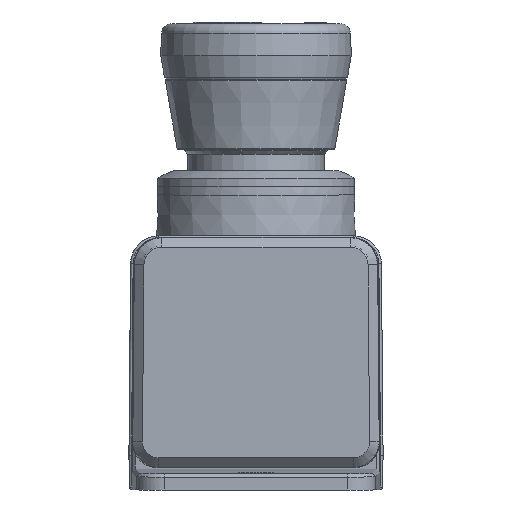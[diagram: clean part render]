
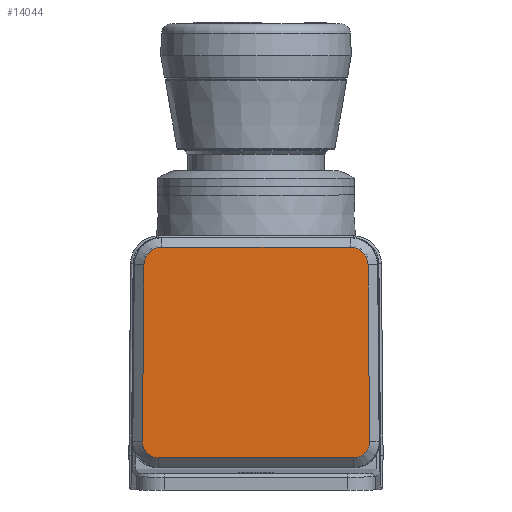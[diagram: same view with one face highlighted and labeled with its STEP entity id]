
A CAD part, front view. The second image highlights one B-rep face of the part: STEP entity #14044.
In plain terms, the highlighted planar face has unit normal (0, -1, 0) as drawn and (0, 1, 0) by its records, which use the part's own axes.
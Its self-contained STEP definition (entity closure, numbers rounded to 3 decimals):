
#622=PLANE('',#15262);
#1266=FACE_OUTER_BOUND('',#2136,.T.);
#2136=EDGE_LOOP('',(#11051,#11052,#11053,#11054,#11055,#11056,#11057,#11058,
#11059,#11060,#11061,#11062));
#2915=CIRCLE('',#15255,2.813);
#2917=CIRCLE('',#15259,2.813);
#3657=LINE('',#25554,#4727);
#3661=LINE('',#25563,#4731);
#3665=LINE('',#25575,#4735);
#3670=LINE('',#25637,#4740);
#4727=VECTOR('',#17907,10.);
#4731=VECTOR('',#17913,10.);
#4735=VECTOR('',#17925,10.);
#4740=VECTOR('',#17938,10.);
#5514=B_SPLINE_CURVE_WITH_KNOTS('',3,(#25602,#25603,#25604,#25605,#25606),
 .UNSPECIFIED.,.F.,.F.,(4,1,4),(-0.786,0.112,0.786),
 .UNSPECIFIED.);
#5516=B_SPLINE_CURVE_WITH_KNOTS('',3,(#25628,#25629,#25630,#25631),
 .UNSPECIFIED.,.F.,.F.,(4,4),(-0.79,-0.786),
 .UNSPECIFIED.);
#5517=B_SPLINE_CURVE_WITH_KNOTS('',3,(#25654,#25655,#25656,#25657),
 .UNSPECIFIED.,.F.,.F.,(4,4),(-11.78,-11.777),
 .UNSPECIFIED.);
#5518=B_SPLINE_CURVE_WITH_KNOTS('',3,(#25681,#25682,#25683,#25684,#25685),
 .UNSPECIFIED.,.F.,.F.,(4,1,4),(-0.786,-0.112,0.786),
 .UNSPECIFIED.);
#5519=B_SPLINE_CURVE_WITH_KNOTS('',3,(#25703,#25704,#25705,#25706),
 .UNSPECIFIED.,.F.,.F.,(4,4),(-0.79,-0.786),
 .UNSPECIFIED.);
#5521=B_SPLINE_CURVE_WITH_KNOTS('',3,(#25727,#25728,#25729,#25730),
 .UNSPECIFIED.,.F.,.F.,(4,4),(-11.78,-11.777),
 .UNSPECIFIED.);
#6242=VERTEX_POINT('',#25547);
#6245=VERTEX_POINT('',#25552);
#6246=VERTEX_POINT('',#25556);
#6249=VERTEX_POINT('',#25561);
#6250=VERTEX_POINT('',#25565);
#6252=VERTEX_POINT('',#25571);
#6254=VERTEX_POINT('',#25599);
#6255=VERTEX_POINT('',#25601);
#6256=VERTEX_POINT('',#25633);
#6257=VERTEX_POINT('',#25635);
#6258=VERTEX_POINT('',#25678);
#6259=VERTEX_POINT('',#25680);
#7935=EDGE_CURVE('',#6245,#6242,#3657,.T.);
#7939=EDGE_CURVE('',#6249,#6246,#3661,.T.);
#7942=EDGE_CURVE('',#6246,#6250,#2915,.T.);
#7945=EDGE_CURVE('',#6250,#6252,#3665,.T.);
#7947=EDGE_CURVE('',#6242,#6249,#2917,.T.);
#7949=EDGE_CURVE('',#6254,#6255,#5514,.T.);
#7952=EDGE_CURVE('',#6252,#6254,#5516,.T.);
#7955=EDGE_CURVE('',#6257,#6256,#3670,.T.);
#7956=EDGE_CURVE('',#6255,#6257,#5517,.T.);
#7958=EDGE_CURVE('',#6258,#6259,#5518,.T.);
#7960=EDGE_CURVE('',#6256,#6258,#5519,.T.);
#7962=EDGE_CURVE('',#6259,#6245,#5521,.T.);
#11051=ORIENTED_EDGE('',*,*,#7958,.F.);
#11052=ORIENTED_EDGE('',*,*,#7960,.F.);
#11053=ORIENTED_EDGE('',*,*,#7955,.F.);
#11054=ORIENTED_EDGE('',*,*,#7956,.F.);
#11055=ORIENTED_EDGE('',*,*,#7949,.F.);
#11056=ORIENTED_EDGE('',*,*,#7952,.F.);
#11057=ORIENTED_EDGE('',*,*,#7945,.F.);
#11058=ORIENTED_EDGE('',*,*,#7942,.F.);
#11059=ORIENTED_EDGE('',*,*,#7939,.F.);
#11060=ORIENTED_EDGE('',*,*,#7947,.F.);
#11061=ORIENTED_EDGE('',*,*,#7935,.F.);
#11062=ORIENTED_EDGE('',*,*,#7962,.F.);
#14044=ADVANCED_FACE('',(#1266),#622,.T.);
#15255=AXIS2_PLACEMENT_3D('',#25569,#17919,#17920);
#15259=AXIS2_PLACEMENT_3D('',#25578,#17930,#17931);
#15262=AXIS2_PLACEMENT_3D('',#25733,#17944,#17945);
#17907=DIRECTION('',(-0.009,0.,1.));
#17913=DIRECTION('',(-1.,0.,0.));
#17919=DIRECTION('center_axis',(0.,-1.,0.));
#17920=DIRECTION('ref_axis',(-1.,0.,0.009));
#17925=DIRECTION('',(-0.009,0.,-1.));
#17930=DIRECTION('center_axis',(0.,-1.,0.));
#17931=DIRECTION('ref_axis',(0.,0.,
1.));
#17938=DIRECTION('',(1.,0.,0.));
#17944=DIRECTION('center_axis',(0.,1.,0.));
#17945=DIRECTION('ref_axis',(1.,0.,0.));
#25547=CARTESIAN_POINT('',(17.634,126.2,15.423));
#25552=CARTESIAN_POINT('',(17.877,126.2,-12.393));
#25554=CARTESIAN_POINT('',(17.837,126.2,-7.84));
#25556=CARTESIAN_POINT('',(-14.818,126.2,18.211));
#25561=CARTESIAN_POINT('',(14.821,126.2,18.211));
#25563=CARTESIAN_POINT('',(7.412,126.2,18.211));
#25565=CARTESIAN_POINT('',(-17.631,126.2,15.423));
#25569=CARTESIAN_POINT('Origin',(-14.818,126.2,15.398));
#25571=CARTESIAN_POINT('',(-17.873,126.2,-12.393));
#25575=CARTESIAN_POINT('',(-17.694,126.2,8.129));
#25578=CARTESIAN_POINT('Origin',(14.821,126.2,15.398));
#25599=CARTESIAN_POINT('',(-17.873,126.2,-12.401));
#25601=CARTESIAN_POINT('',(-15.382,126.2,-14.914));
#25602=CARTESIAN_POINT('Ctrl Pts',(-17.873,126.2,-12.401));
#25603=CARTESIAN_POINT('Ctrl Pts',(-17.877,126.2,-13.15));
#25604=CARTESIAN_POINT('Ctrl Pts',(-17.255,126.2,-14.45));
#25605=CARTESIAN_POINT('Ctrl Pts',(-15.944,126.2,-14.913));
#25606=CARTESIAN_POINT('Ctrl Pts',(-15.382,126.2,-14.914));
#25628=CARTESIAN_POINT('Ctrl Pts',(-17.873,126.2,-12.393));
#25629=CARTESIAN_POINT('Ctrl Pts',(-17.873,126.2,-12.396));
#25630=CARTESIAN_POINT('Ctrl Pts',(-17.873,126.2,-12.398));
#25631=CARTESIAN_POINT('Ctrl Pts',(-17.873,126.2,-12.401));
#25633=CARTESIAN_POINT('',(15.377,126.2,-14.914));
#25635=CARTESIAN_POINT('',(-15.374,126.2,-14.914));
#25637=CARTESIAN_POINT('',(-9.747,126.2,-14.914));
#25654=CARTESIAN_POINT('Ctrl Pts',(-15.382,126.2,-14.914));
#25655=CARTESIAN_POINT('Ctrl Pts',(-15.379,126.2,-14.914));
#25656=CARTESIAN_POINT('Ctrl Pts',(-15.376,126.2,-14.914));
#25657=CARTESIAN_POINT('Ctrl Pts',(-15.374,126.2,-14.914));
#25678=CARTESIAN_POINT('',(15.385,126.2,-14.914));
#25680=CARTESIAN_POINT('',(17.877,126.2,-12.401));
#25681=CARTESIAN_POINT('Ctrl Pts',(15.385,126.2,-14.914));
#25682=CARTESIAN_POINT('Ctrl Pts',(15.947,126.2,-14.913));
#25683=CARTESIAN_POINT('Ctrl Pts',(17.258,126.2,-14.45));
#25684=CARTESIAN_POINT('Ctrl Pts',(17.881,126.2,-13.15));
#25685=CARTESIAN_POINT('Ctrl Pts',(17.877,126.2,-12.401));
#25703=CARTESIAN_POINT('Ctrl Pts',(15.377,126.2,-14.914));
#25704=CARTESIAN_POINT('Ctrl Pts',(15.38,126.2,-14.914));
#25705=CARTESIAN_POINT('Ctrl Pts',(15.383,126.2,-14.914));
#25706=CARTESIAN_POINT('Ctrl Pts',(15.385,126.2,-14.914));
#25727=CARTESIAN_POINT('Ctrl Pts',(17.877,126.2,-12.401));
#25728=CARTESIAN_POINT('Ctrl Pts',(17.877,126.2,-12.398));
#25729=CARTESIAN_POINT('Ctrl Pts',(17.877,126.2,-12.396));
#25730=CARTESIAN_POINT('Ctrl Pts',(17.877,126.2,-12.393));
#25733=CARTESIAN_POINT('Origin',(0.002,126.2,0.68));
